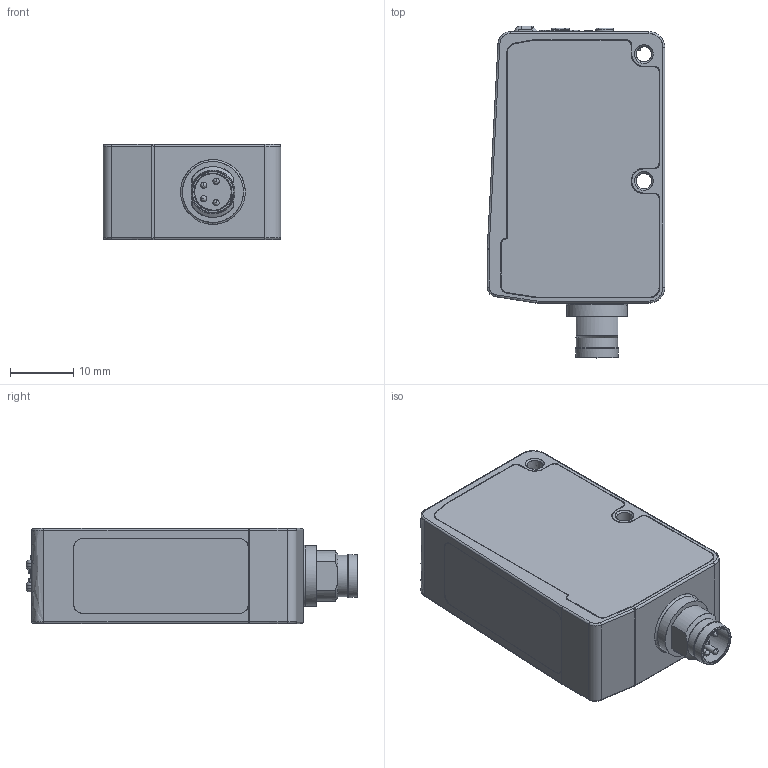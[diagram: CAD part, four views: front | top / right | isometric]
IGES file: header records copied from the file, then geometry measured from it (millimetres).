
Start section: JAMA-IS VERSION  1.0
Global section: file name: D:\CS\IDF\TESTPCB\DSD-0787.igs; native system: NX V12.0; preprocessor: SIEMENS PLM Software NX 12.0; date: 200922.170908; units: millimetre
Bounding box: 28 x 52.35 x 15 mm (x, y, z)
Surface area: 5191.5 mm2 (no closed solid volume)
Topology: 0 solids, 0 shells, 273 faces, 1384 edges, 1358 vertices
Faces by surface type: bspline 273
